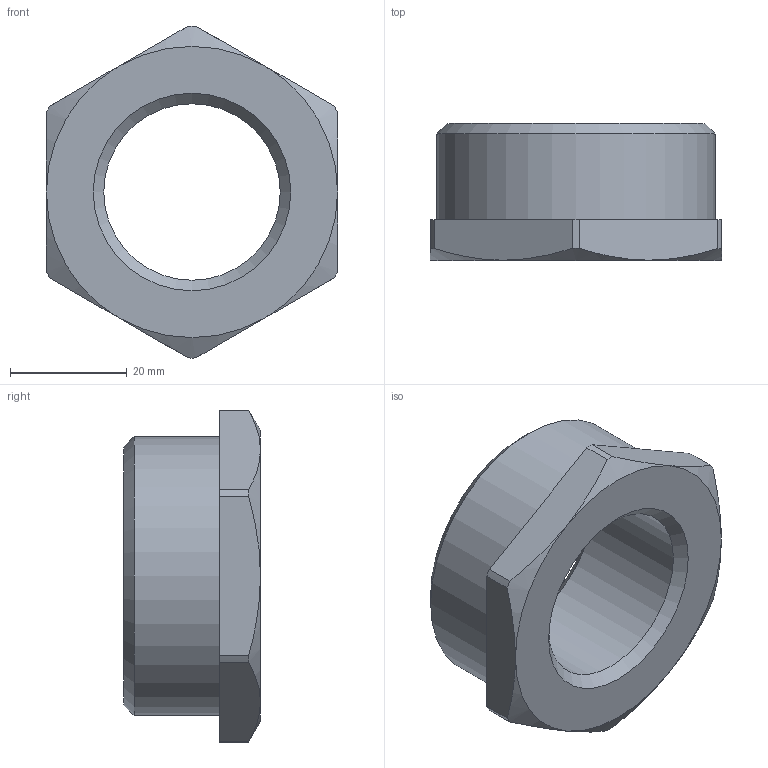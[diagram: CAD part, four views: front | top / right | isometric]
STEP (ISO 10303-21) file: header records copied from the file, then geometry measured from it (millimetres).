
FILE_DESCRIPTION(('STEP AP203'), '1');
FILE_NAME('ÂÐ.753128.037 - VTr.581.N.0806 Ôèò. ðåçüá', '2024-07-04T13:30:30', ('Boss'), (''), 'C3D Converter', 'C3D Toolkit', '');
FILE_SCHEMA(('CONFIG_CONTROL_DESIGN'));
Length unit declared in the file: millimetre
Products named in the file (1): ВР.753128.037
Bounding box: 50 x 23.5 x 57 mm (x, y, z)
Volume: 27132.1 mm3; surface area: 8351.1 mm2
Topology: 1 solids, 1 shells, 26 faces, 60 edges, 37 vertices
Faces by surface type: plane 9, cone 9, cylinder 8
Full cylindrical faces by diameter (mm): 30.292 x1, 47.803 x1
Entity records: 965 total; most frequent: CARTESIAN_POINT 399, DIRECTION 114, ORIENTED_EDGE 102, EDGE_CURVE 51, AXIS2_PLACEMENT_3D 48, VERTEX_POINT 35, EDGE_LOOP 32, ADVANCED_FACE 24
